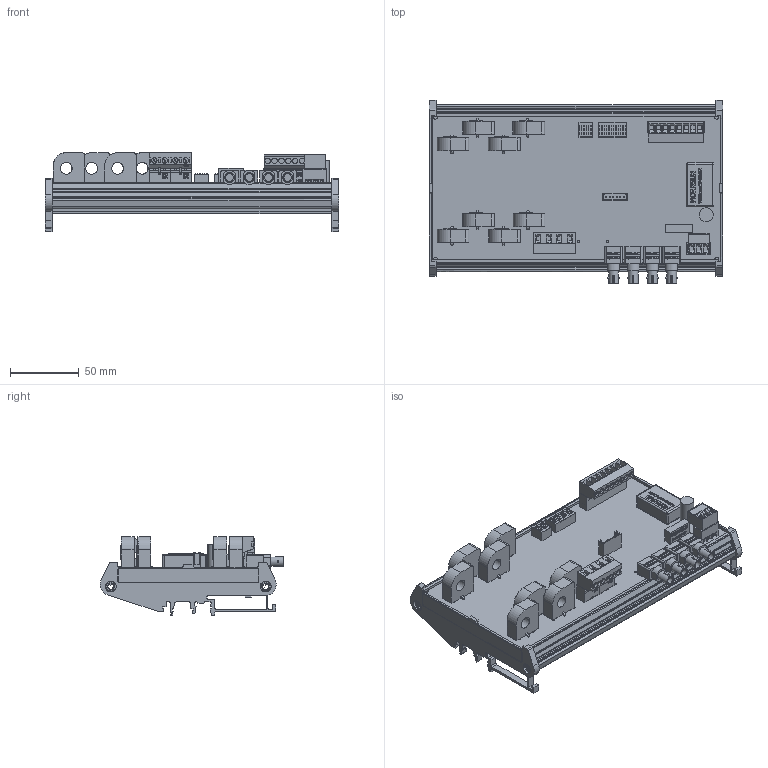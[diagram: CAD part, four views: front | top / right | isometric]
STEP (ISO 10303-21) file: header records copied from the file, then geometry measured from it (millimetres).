
FILE_DESCRIPTION(('FreeCAD Model'),'2;1');
FILE_NAME('C:/3D Files/Stringhe/ST0HS/ST0HS08xx DR/ST0HS08xx DR.step', '2023-01-13T09:10:08',('Author'),(''), 'Open CASCADE STEP processor 7.3','FreeCAD','Unknown');
FILE_SCHEMA(('AUTOMOTIVE_DESIGN { 1 0 10303 214 1 1 1 1 }'));
Length unit declared in the file: millimetre
Products named in the file (28): ST0HS08xx_DR; AmpModu_6P_M; DipSwitch8; DipSwitch4; Stampato; Profilo_212.9x128; IB2405LS-1W; WRB2403ZP-6WR003; ELNA_470_uF_35_V; Mstb_03P_F; Mstb_03Pc_M; SH04-7,62; PV02-7,62-V-Pa; PV02-7,62-V-Pb; Mstb_8P_F; Mstb_8Pc_M; CHK-LSP5S2L-BP-CH_1; CHK-LSP5S2L-BP-CH_2; CHK-LSP5S2L-BP-CH_3; CHK-LSP5S2L-BP-CH_4; CHK-LSP5S2L-BP-CH_5; CHK-LSP5S2L-BP-CH_6; CHK-LSP5S2L-BP-CH_7; CHK-LSP5S2L-BP-CH_8; HFBR-x41xTZ001; HFBR-x41xTZ002; HFBR-x41xTZ003; HFBR-x41xTZ004
Assembly tree (27 placements, depth 2):
  ST0HS08xx_DR
    AmpModu_6P_M
    DipSwitch8
    DipSwitch4
    Stampato
    Profilo_212.9x128
    IB2405LS-1W
    WRB2403ZP-6WR003
    ELNA_470_uF_35_V
    Mstb_03P_F
    Mstb_03Pc_M
    SH04-7,62
    PV02-7,62-V-Pa
    PV02-7,62-V-Pb
    Mstb_8P_F
    Mstb_8Pc_M
    CHK-LSP5S2L-BP-CH_1
    CHK-LSP5S2L-BP-CH_2
    CHK-LSP5S2L-BP-CH_3
    CHK-LSP5S2L-BP-CH_4
    CHK-LSP5S2L-BP-CH_5
    CHK-LSP5S2L-BP-CH_6
    CHK-LSP5S2L-BP-CH_7
    CHK-LSP5S2L-BP-CH_8
    HFBR-x41xTZ001
    HFBR-x41xTZ002
    HFBR-x41xTZ003
    HFBR-x41xTZ004
Bounding box: 212.9 x 133.13 x 57.69 mm (x, y, z)
Volume: 190725.1 mm3; surface area: 205750.8 mm2
Topology: 87 solids, 206 shells, 4125 faces, 14869 edges, 19051 vertices
Faces by surface type: plane 2692, bspline 747, cylinder 546, torus 80, cone 41, sphere 16, extrusion 3
Full cylindrical faces by diameter (mm): 0.5 x36, 0.75 x36, 1 x18, 1.5 x8, 1.6 x7, 3.8 x4, 4 x15, 5.6 x4, 7.1 x4, 10 x1
Entity records: 340887 total; most frequent: CARTESIAN_POINT 95261, DIRECTION 36413, VECTOR 25326, LINE 25323, ORIENTED_EDGE 22547, PCURVE 22547, DEFINITIONAL_REPRESENTATION 22547, EDGE_CURVE 12160
